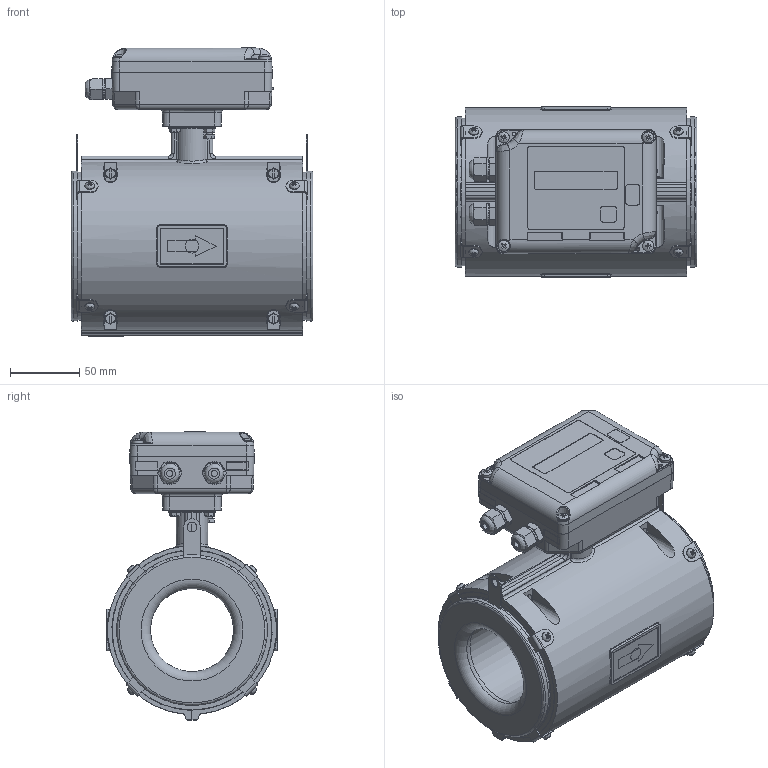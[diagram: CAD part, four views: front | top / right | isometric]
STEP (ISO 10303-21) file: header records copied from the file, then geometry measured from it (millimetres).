
FILE_DESCRIPTION(('STEP AP242'), '1');
FILE_NAME('1_ØÊÑÄ.407212.032-003 Ðàñõîäîìåð-ñ÷¸ò÷èê ýëåêòðîìàãíèòíûé Âçë¸ò èñïîëíåíèå Ëàéò Ì', '', ('UNSPECIFIED'), ('UNSPECIFIED'), 'ASCON STEP Converter 1.6', 'ASCON Math Kernel', '');
FILE_SCHEMA(('AP242_MANAGED_MODEL_BASED_3D_ENGINEERING_MIM_LF { 1 0 10303 442 1 1 4 }'));
Length unit declared in the file: millimetre
Products named in the file (1): 婽挭.407212.032-003.03-003.09
Bounding box: 175 x 123 x 208.5 mm (x, y, z)
Volume: 845677.9 mm3; surface area: 520685.3 mm2
Topology: 83 solids, 83 shells, 2403 faces, 5668 edges, 3495 vertices
Faces by surface type: plane 1163, cylinder 620, cone 309, bspline 231, torus 60, sphere 20
Full cylindrical faces by diameter (mm): 2 x4, 2.3 x9, 2.4 x2, 3 x10, 3.242 x13, 3.422 x4, 4 x22, 4.3 x8, 4.5 x20, 5 x8, 5.5 x8, 6 x2, 7 x28, 7.5 x4, 7.65 x1, 8 x7, 9 x7, 10 x1, 12 x6, 12.2 x2, 12.5 x2, 15 x2, 16.5 x2, 17 x1, 18 x1, 61 x1, 68 x2, 70 x2, 75 x4, 76 x1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
Entity records: 148608 total; most frequent: CARTESIAN_POINT 78075, ORIENTED_EDGE 10310, DIRECTION 9545, EDGE_CURVE 5155, AXIS2_PLACEMENT_3D 3544, VERTEX_POINT 3481, EDGE_LOOP 3150, COLOUR_RGB 2486
